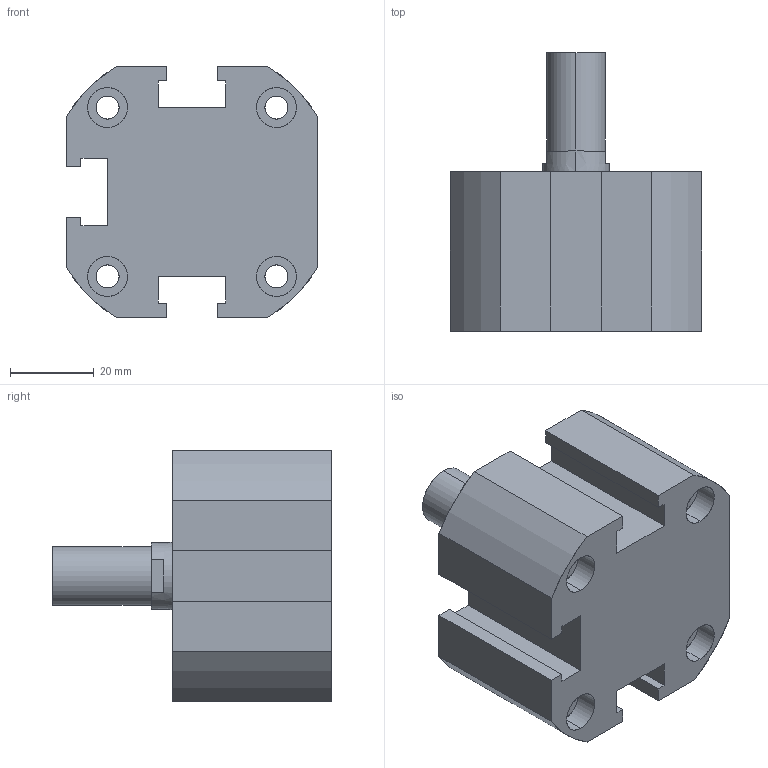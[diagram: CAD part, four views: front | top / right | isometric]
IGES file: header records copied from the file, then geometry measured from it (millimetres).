
Start section: SolidWorks IGES file using analytic representation for surfaces
Global section: file name: C:\Users\Toshiba\Desktop\XC#M0-40-10.IGS; native system: SolidWorks 2014; preprocessor: SolidWorks 2014; author: Toshiba; date: 160523.163443; units: millimetre
Bounding box: 60 x 66.5 x 60 mm (x, y, z)
Surface area: 22137.9 mm2 (no closed solid volume)
Topology: 0 solids, 0 shells, 107 faces, 1924 edges, 1922 vertices
Faces by surface type: revolution 56, bspline 51
